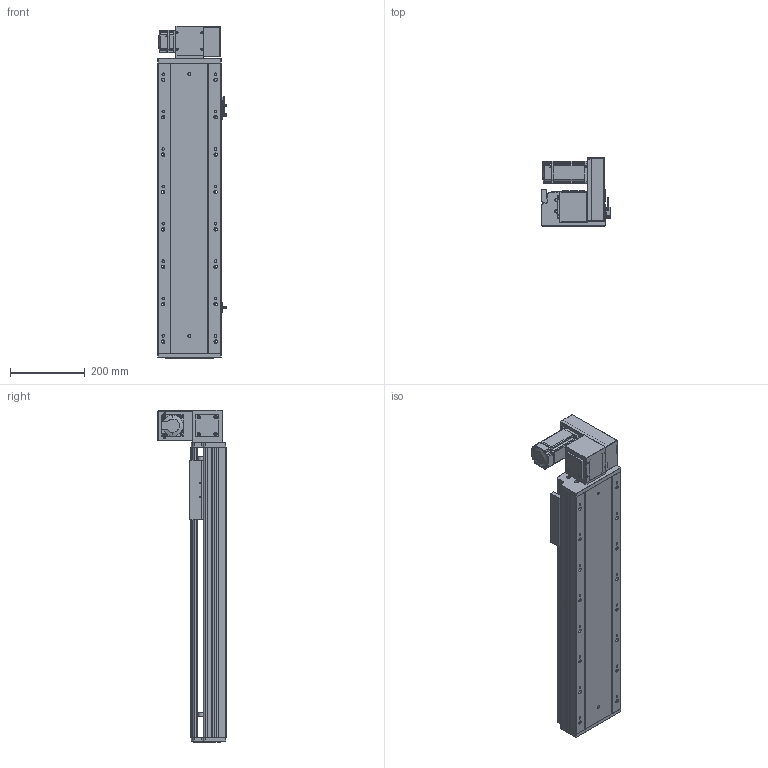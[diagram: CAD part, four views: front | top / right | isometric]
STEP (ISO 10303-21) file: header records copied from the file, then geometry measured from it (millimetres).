
FILE_DESCRIPTION (( 'STEP AP203' ), '1' );
FILE_NAME ('RY170-T-300-UR-P400W.SLDASM_500.step', '2021-03-01T09:27:03', ( '盈信电脑' ), ( '东莞市道滘镇水果街19号' ), 'SwSTEP 2.0', 'SolidWorks 2012', '' );
FILE_SCHEMA (( 'CONFIG_CONTROL_DESIGN' ));
Products named in the file (18): 滅袉蝶18-10; 15; RY170-T-300-UR-P400W.SLDASM_500; RY170-T蹟翐M4; RY120-T主同步轮轴承压盖; RY170-T肮祭謫裔啣; RY170-T肮祭湍揤踡輸2; RY170-T肮祭湍揤踡輸1; RY170同步轮电机安装板(400W); RY170肮祭謫萇儂欶; 覜茼ん672; RY170肮祭謫ヶ裔啣; RY170翋肮祭謫釱; RY170外置感应片(200共用）; RY170綴裔啣; RY170肮祭湍臏賑輸; RY170-T-300肮祭謫倰第菁釱-DR_500; RY170-T-300肮祭謫倰第裔啣-DR_500
Assembly tree (22 placements, depth 2):
  RY170-T-300-UR-P400W.SLDASM_500
    RY170-T-300肮祭謫倰第菁釱-DR_500
    RY170肮祭湍臏賑輸
    RY170-T-300肮祭謫倰第裔啣-DR_500
    RY170綴裔啣
    覜茼ん672  x3
    RY170外置感应片(200共用）
    RY170肮祭謫ヶ裔啣
    RY170翋肮祭謫釱
    RY170同步轮电机安装板(400W)
    RY170肮祭謫萇儂欶
    RY170-T肮祭湍揤踡輸1  x2
    RY170-T肮祭湍揤踡輸2  x2
    RY120-T主同步轮轴承压盖
    RY170-T肮祭謫裔啣
    RY170-T蹟翐M4
    滅袉蝶18-10  x2
    15
Bounding box: 183.7 x 182 x 888 mm (x, y, z)
Volume: 4818693 mm3; surface area: 1608807.9 mm2
Topology: 22 solids, 22 shells, 2700 faces, 7522 edges, 4853 vertices
Faces by surface type: plane 1262, cylinder 1204, cone 204, bspline 30
Entity records: 80872 total; most frequent: CARTESIAN_POINT 18179, ORIENTED_EDGE 12816, DIRECTION 12520, EDGE_CURVE 6408, AXIS2_PLACEMENT_3D 4384, VERTEX_POINT 4209, VECTOR 3752, LINE 3752
